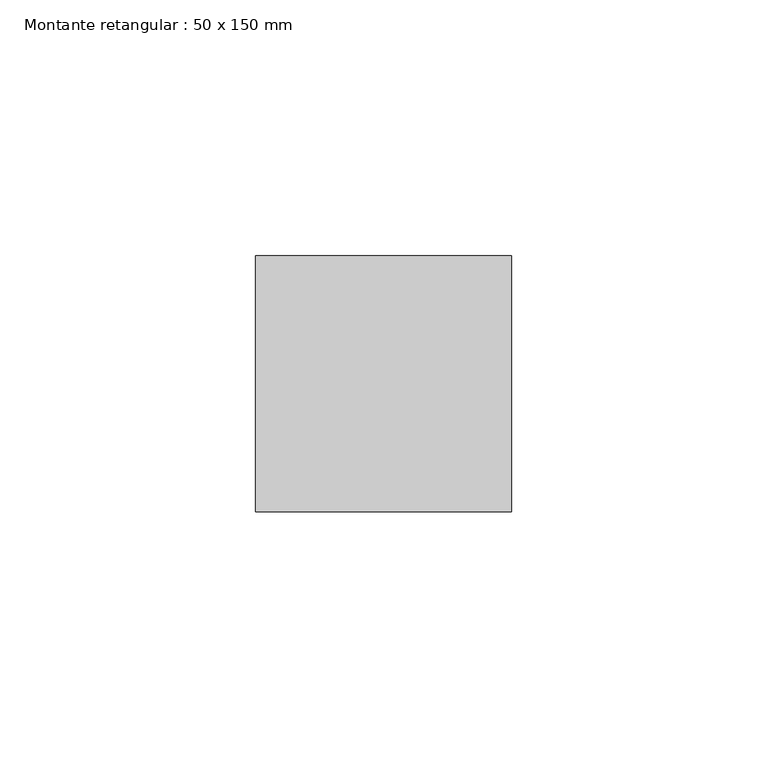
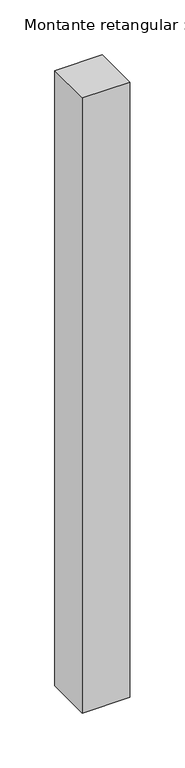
"""IFC4 building model written with IfcOpenShell, lengths in millimetres: member geometry, Montante retangular : 50 x 150 mm."""

from ifc_helpers import new_model, si_unit, frame, origin, place, context, project, spatial, polyline, outline, extrude, source, transform, mapped, element, save


def montante_retangular_50_x_150_mm_46190ca2(model_context):
    return source(origin(), model_context, "Body", "SweptSolid", [
        extrude(outline(polyline([(0.0, 25.0), (0.0, -25.0), (-50.0, -25.0), (-50.0, 25.0), (0.0, 25.0)])), frame((0.0, 0.0, -685.05), z_axis=(0.0, 0.0, 1.0), x_axis=(1.0, 0.0, 0.0)), (0.0, 0.0, 1.0), 685.05),
    ])


if __name__ == "__main__":
    model = new_model("IFC4")
    model_context = context("Model", 3, world=origin())
    ifc_project = project(units=[si_unit("LENGTHUNIT", "METRE", prefix="MILLI")], contexts=[model_context])
    site = spatial("IfcSite", under=ifc_project)
    building = spatial("IfcBuilding", under=site)
    placement = place(None, origin())
    montante_retangular_50_x_150_mm_shape = montante_retangular_50_x_150_mm_46190ca2(model_context)
    element("IfcMember", 1, ObjectType="Montante retangular : 50 x 150 mm", at=placement, inside=building, context=model_context, shape_type="MappedRepresentation", body=[
        mapped(montante_retangular_50_x_150_mm_shape, transform((0.0, 0.0, 0.0), x_axis=(1.0, 0.0, 0.0), y_axis=(0.0, 1.0, 0.0), z_axis=(0.0, 0.0, 1.0))),
    ])
    save(model, "model.ifc")
